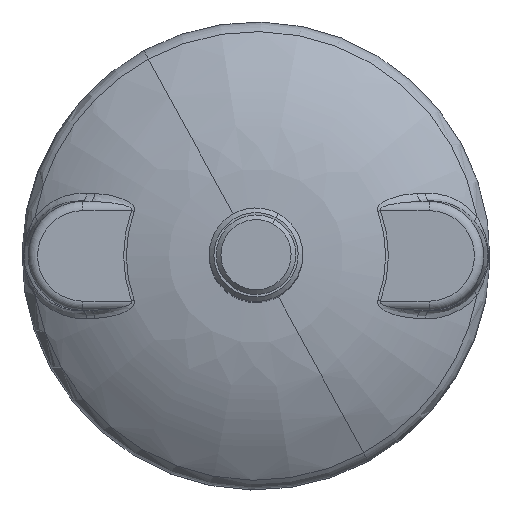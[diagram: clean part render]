
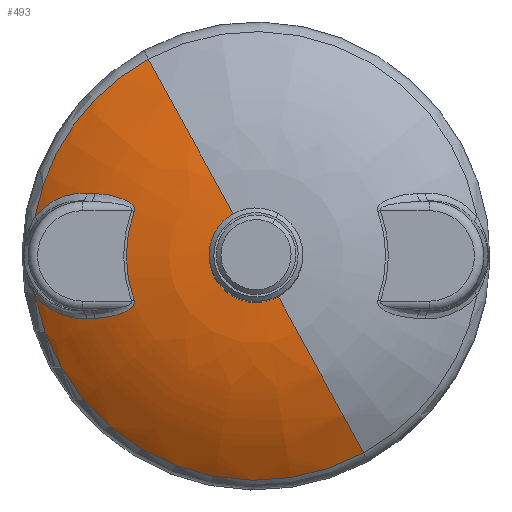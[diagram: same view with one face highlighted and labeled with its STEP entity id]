
A CAD part, top view. The second image highlights one B-rep face of the part: STEP entity #493.
In plain terms, the highlighted face is a revolution surface.
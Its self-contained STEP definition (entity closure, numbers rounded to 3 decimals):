
#321=CARTESIAN_POINT('Axis2P3D Location',(0.,0.,22.)) ;
#325=CARTESIAN_POINT('Vertex',(-3.835,7.021,22.)) ;
#327=CARTESIAN_POINT('Vertex',(3.835,-7.021,22.)) ;
#345=CARTESIAN_POINT('Control Point',(-22.981,42.067,9.048)) ;
#346=CARTESIAN_POINT('Control Point',(-18.839,34.485,15.31)) ;
#347=CARTESIAN_POINT('Control Point',(-14.068,25.751,19.768)) ;
#348=CARTESIAN_POINT('Control Point',(-8.951,16.384,22.)) ;
#349=CARTESIAN_POINT('Control Point',(-3.835,7.021,22.)) ;
#350=CARTESIAN_POINT('Axis1P Location',(0.,0.,-46.042)) ;
#354=CARTESIAN_POINT('Axis2P3D Location',(0.,0.,9.048)) ;
#358=CARTESIAN_POINT('Vertex',(-47.195,-8.388,9.048)) ;
#360=CARTESIAN_POINT('Vertex',(22.981,-42.067,9.048)) ;
#363=CARTESIAN_POINT('Axis2P3D Location',(3.835,-7.021,-46.042)) ;
#368=CARTESIAN_POINT('Axis2P3D Location',(-3.835,7.021,-46.042)) ;
#372=CARTESIAN_POINT('Vertex',(-22.981,42.067,9.048)) ;
#375=CARTESIAN_POINT('Axis2P3D Location',(0.,0.,9.048)) ;
#379=CARTESIAN_POINT('Vertex',(-47.195,8.388,9.048)) ;
#383=CARTESIAN_POINT('Control Point',(-47.195,8.388,9.048)) ;
#384=CARTESIAN_POINT('Control Point',(-45.302,10.745,10.1)) ;
#385=CARTESIAN_POINT('Control Point',(-43.032,12.224,11.328)) ;
#386=CARTESIAN_POINT('Control Point',(-40.741,13.119,12.512)) ;
#387=CARTESIAN_POINT('Control Point',(-38.417,13.501,13.668)) ;
#388=CARTESIAN_POINT('Control Point',(-36.158,13.411,14.749)) ;
#389=CARTESIAN_POINT('Vertex',(-36.158,13.411,14.749)) ;
#393=CARTESIAN_POINT('Control Point',(-36.158,13.411,14.749)) ;
#394=CARTESIAN_POINT('Control Point',(-35.592,13.388,15.02)) ;
#395=CARTESIAN_POINT('Control Point',(-35.021,13.366,15.283)) ;
#396=CARTESIAN_POINT('Control Point',(-34.446,13.345,15.539)) ;
#397=CARTESIAN_POINT('Vertex',(-34.446,13.345,15.539)) ;
#401=CARTESIAN_POINT('Control Point',(-34.446,13.345,15.539)) ;
#402=CARTESIAN_POINT('Control Point',(-33.443,13.308,15.984)) ;
#403=CARTESIAN_POINT('Control Point',(-32.447,13.207,16.414)) ;
#404=CARTESIAN_POINT('Control Point',(-31.456,13.047,16.828)) ;
#405=CARTESIAN_POINT('Control Point',(-30.158,12.763,17.352)) ;
#406=CARTESIAN_POINT('Control Point',(-28.888,12.332,17.847)) ;
#407=CARTESIAN_POINT('Control Point',(-28.585,12.219,17.965)) ;
#408=CARTESIAN_POINT('Control Point',(-28.081,12.011,18.159)) ;
#409=CARTESIAN_POINT('Control Point',(-27.587,11.762,18.349)) ;
#410=CARTESIAN_POINT('Control Point',(-27.392,11.655,18.425)) ;
#411=CARTESIAN_POINT('Control Point',(-27.067,11.459,18.55)) ;
#412=CARTESIAN_POINT('Control Point',(-26.754,11.225,18.674)) ;
#413=CARTESIAN_POINT('Control Point',(-26.631,11.124,18.723)) ;
#414=CARTESIAN_POINT('Control Point',(-26.429,10.937,18.806)) ;
#415=CARTESIAN_POINT('Control Point',(-26.242,10.706,18.888)) ;
#416=CARTESIAN_POINT('Control Point',(-26.17,10.603,18.921)) ;
#417=CARTESIAN_POINT('Control Point',(-26.067,10.431,18.971)) ;
#418=CARTESIAN_POINT('Control Point',(-25.992,10.205,19.018)) ;
#419=CARTESIAN_POINT('Control Point',(-25.97,10.118,19.034)) ;
#420=CARTESIAN_POINT('Control Point',(-25.945,9.944,19.06)) ;
#421=CARTESIAN_POINT('Control Point',(-25.959,9.739,19.078)) ;
#422=CARTESIAN_POINT('Control Point',(-25.976,9.643,19.083)) ;
#423=CARTESIAN_POINT('Control Point',(-26.001,9.553,19.086)) ;
#424=CARTESIAN_POINT('Control Point',(-26.031,9.469,19.086)) ;
#425=CARTESIAN_POINT('Vertex',(-26.031,9.469,19.086)) ;
#428=CARTESIAN_POINT('Axis2P3D Location',(0.,0.,19.086)) ;
#432=CARTESIAN_POINT('Vertex',(-26.031,-9.469,19.086)) ;
#436=CARTESIAN_POINT('Control Point',(-26.031,-9.469,19.086)) ;
#437=CARTESIAN_POINT('Control Point',(-25.994,-9.573,19.086)) ;
#438=CARTESIAN_POINT('Control Point',(-25.964,-9.687,19.082)) ;
#439=CARTESIAN_POINT('Control Point',(-25.949,-9.807,19.074)) ;
#440=CARTESIAN_POINT('Control Point',(-25.951,-10.123,19.039)) ;
#441=CARTESIAN_POINT('Control Point',(-26.033,-10.348,18.99)) ;
#442=CARTESIAN_POINT('Control Point',(-26.092,-10.471,18.959)) ;
#443=CARTESIAN_POINT('Control Point',(-26.254,-10.738,18.881)) ;
#444=CARTESIAN_POINT('Control Point',(-26.44,-10.943,18.802)) ;
#445=CARTESIAN_POINT('Control Point',(-26.552,-11.052,18.756)) ;
#446=CARTESIAN_POINT('Control Point',(-26.829,-11.29,18.644)) ;
#447=CARTESIAN_POINT('Control Point',(-27.118,-11.488,18.531)) ;
#448=CARTESIAN_POINT('Control Point',(-27.288,-11.593,18.465)) ;
#449=CARTESIAN_POINT('Control Point',(-27.633,-11.788,18.331)) ;
#450=CARTESIAN_POINT('Control Point',(-27.985,-11.959,18.196)) ;
#451=CARTESIAN_POINT('Control Point',(-28.162,-12.039,18.128)) ;
#452=CARTESIAN_POINT('Control Point',(-28.792,-12.306,17.885)) ;
#453=CARTESIAN_POINT('Control Point',(-29.434,-12.522,17.635)) ;
#454=CARTESIAN_POINT('Control Point',(-29.895,-12.658,17.453)) ;
#455=CARTESIAN_POINT('Control Point',(-31.073,-12.961,16.982)) ;
#456=CARTESIAN_POINT('Control Point',(-32.266,-13.165,16.486)) ;
#457=CARTESIAN_POINT('Control Point',(-32.988,-13.257,16.179)) ;
#458=CARTESIAN_POINT('Control Point',(-33.716,-13.318,15.863)) ;
#459=CARTESIAN_POINT('Control Point',(-34.446,-13.345,15.539)) ;
#460=CARTESIAN_POINT('Vertex',(-34.446,-13.345,15.539)) ;
#464=CARTESIAN_POINT('Control Point',(-36.158,-13.411,14.749)) ;
#465=CARTESIAN_POINT('Control Point',(-35.592,-13.388,15.02)) ;
#466=CARTESIAN_POINT('Control Point',(-35.021,-13.366,15.283)) ;
#467=CARTESIAN_POINT('Control Point',(-34.446,-13.345,15.539)) ;
#468=CARTESIAN_POINT('Vertex',(-36.158,-13.411,14.749)) ;
#472=CARTESIAN_POINT('Control Point',(-36.158,-13.411,14.749)) ;
#473=CARTESIAN_POINT('Control Point',(-38.418,-13.501,13.667)) ;
#474=CARTESIAN_POINT('Control Point',(-40.742,-13.118,12.511)) ;
#475=CARTESIAN_POINT('Control Point',(-43.032,-12.224,11.328)) ;
#476=CARTESIAN_POINT('Control Point',(-45.302,-10.745,10.1)) ;
#477=CARTESIAN_POINT('Control Point',(-47.195,-8.388,9.048)) ;
#322=DIRECTION('Axis2P3D Direction',(0.,0.,1.)) ;
#351=DIRECTION('Axis1P Direction',(-0.,-0.,-1.)) ;
#355=DIRECTION('Axis2P3D Direction',(0.,0.,1.)) ;
#364=DIRECTION('Axis2P3D Direction',(-0.878,-0.479,0.)) ;
#369=DIRECTION('Axis2P3D Direction',(0.878,0.479,-0.)) ;
#376=DIRECTION('Axis2P3D Direction',(0.,0.,1.)) ;
#429=DIRECTION('Axis2P3D Direction',(0.,0.,1.)) ;
#323=AXIS2_PLACEMENT_3D('Circle Axis2P3D',#321,#322,$) ;
#356=AXIS2_PLACEMENT_3D('Circle Axis2P3D',#354,#355,$) ;
#365=AXIS2_PLACEMENT_3D('Circle Axis2P3D',#363,#364,$) ;
#370=AXIS2_PLACEMENT_3D('Circle Axis2P3D',#368,#369,$) ;
#377=AXIS2_PLACEMENT_3D('Circle Axis2P3D',#375,#376,$) ;
#430=AXIS2_PLACEMENT_3D('Circle Axis2P3D',#428,#429,$) ;
#480=ORIENTED_EDGE('',*,*,#362,.T.) ;
#481=ORIENTED_EDGE('',*,*,#367,.T.) ;
#482=ORIENTED_EDGE('',*,*,#329,.F.) ;
#483=ORIENTED_EDGE('',*,*,#374,.F.) ;
#484=ORIENTED_EDGE('',*,*,#381,.T.) ;
#485=ORIENTED_EDGE('',*,*,#391,.F.) ;
#486=ORIENTED_EDGE('',*,*,#399,.F.) ;
#487=ORIENTED_EDGE('',*,*,#427,.F.) ;
#488=ORIENTED_EDGE('',*,*,#434,.F.) ;
#489=ORIENTED_EDGE('',*,*,#462,.F.) ;
#490=ORIENTED_EDGE('',*,*,#470,.F.) ;
#491=ORIENTED_EDGE('',*,*,#478,.F.) ;
#493=ADVANCED_FACE('PartBody',(#492),#353,.F.) ;
#352=AXIS1_PLACEMENT('Revolution Surface Axis1P',#350,#351) ;
#344=B_SPLINE_CURVE_WITH_KNOTS('',4,(#345,#346,#347,#348,#349),.UNSPECIFIED.,.F.,.U.,(5,5),(64.201,106.88),.UNSPECIFIED.) ;
#382=B_SPLINE_CURVE_WITH_KNOTS('',5,(#383,#384,#385,#386,#387,#388),.UNSPECIFIED.,.F.,.U.,(6,6),(59.368,75.842),.UNSPECIFIED.) ;
#392=B_SPLINE_CURVE_WITH_KNOTS('',3,(#393,#394,#395,#396),.UNSPECIFIED.,.F.,.U.,(4,4),(28.333,30.987),.UNSPECIFIED.) ;
#400=B_SPLINE_CURVE_WITH_KNOTS('',5,(#401,#402,#403,#404,#405,#406,#407,#408,#409,#410,#411,#412,#413,#414,#415,#416,#417,#418,#419,#420,#421,#422,#423,#424),.UNSPECIFIED.,.F.,.U.,(6,3,3,3,3,3,3,6),(16.506,23.955,26.324,27.909,28.984,29.706,30.081,30.375),.UNSPECIFIED.) ;
#435=B_SPLINE_CURVE_WITH_KNOTS('',5,(#436,#437,#438,#439,#440,#441,#442,#443,#444,#445,#446,#447,#448,#449,#450,#451,#452,#453,#454,#455,#456,#457,#458,#459),.UNSPECIFIED.,.F.,.U.,(6,3,3,3,3,3,3,6),(24.532,24.897,25.609,26.62,28.024,29.425,32.979,38.403),.UNSPECIFIED.) ;
#463=B_SPLINE_CURVE_WITH_KNOTS('',3,(#464,#465,#466,#467),.UNSPECIFIED.,.F.,.U.,(4,4),(28.333,30.987),.UNSPECIFIED.) ;
#471=B_SPLINE_CURVE_WITH_KNOTS('',5,(#472,#473,#474,#475,#476,#477),.UNSPECIFIED.,.F.,.U.,(6,6),(26.043,42.517),.UNSPECIFIED.) ;
#324=CIRCLE('generated circle',#323,8.) ;
#357=CIRCLE('generated circle',#356,47.935) ;
#366=CIRCLE('generated circle',#365,68.042) ;
#371=CIRCLE('generated circle',#370,68.042) ;
#378=CIRCLE('generated circle',#377,47.935) ;
#431=CIRCLE('generated circle',#430,27.7) ;
#329=EDGE_CURVE('',#326,#328,#324,.T.) ;
#362=EDGE_CURVE('',#359,#361,#357,.T.) ;
#367=EDGE_CURVE('',#361,#328,#366,.T.) ;
#374=EDGE_CURVE('',#373,#326,#371,.T.) ;
#381=EDGE_CURVE('',#373,#380,#378,.T.) ;
#391=EDGE_CURVE('',#390,#380,#382,.F.) ;
#399=EDGE_CURVE('',#398,#390,#392,.F.) ;
#427=EDGE_CURVE('',#426,#398,#400,.F.) ;
#434=EDGE_CURVE('',#433,#426,#431,.F.) ;
#462=EDGE_CURVE('',#461,#433,#435,.F.) ;
#470=EDGE_CURVE('',#469,#461,#463,.T.) ;
#478=EDGE_CURVE('',#359,#469,#471,.F.) ;
#479=EDGE_LOOP('',(#480,#481,#482,#483,#484,#485,#486,#487,#488,#489,#490,#491)) ;
#492=FACE_OUTER_BOUND('',#479,.T.) ;
#353=SURFACE_OF_REVOLUTION('homeo Torus',#344,#352) ;
#326=VERTEX_POINT('',#325) ;
#328=VERTEX_POINT('',#327) ;
#359=VERTEX_POINT('',#358) ;
#361=VERTEX_POINT('',#360) ;
#373=VERTEX_POINT('',#372) ;
#380=VERTEX_POINT('',#379) ;
#390=VERTEX_POINT('',#389) ;
#398=VERTEX_POINT('',#397) ;
#426=VERTEX_POINT('',#425) ;
#433=VERTEX_POINT('',#432) ;
#461=VERTEX_POINT('',#460) ;
#469=VERTEX_POINT('',#468) ;
